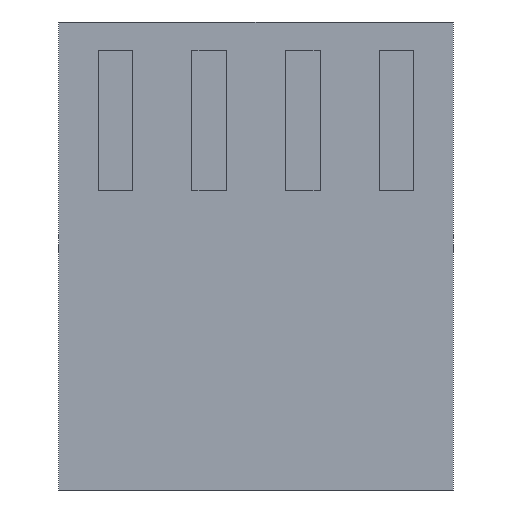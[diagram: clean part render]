
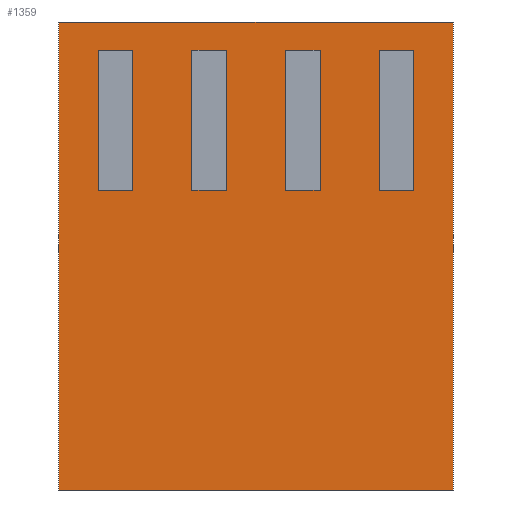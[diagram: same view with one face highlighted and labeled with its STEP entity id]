
A CAD part, front view. The second image highlights one B-rep face of the part: STEP entity #1359.
In plain terms, the highlighted planar face has unit normal (0, -1, 0).
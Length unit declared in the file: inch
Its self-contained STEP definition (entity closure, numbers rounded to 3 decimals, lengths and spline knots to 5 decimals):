
#1=DIRECTION('',(-1.,0.,0.));
#2=VECTOR('',#1,0.422);
#3=CARTESIAN_POINT('',(0.211,0.,0.));
#4=LINE('',#3,#2);
#81=DIRECTION('',(0.,0.,-1.));
#82=VECTOR('',#81,0.5);
#83=CARTESIAN_POINT('',(0.211,0.,0.));
#84=LINE('',#83,#82);
#85=DIRECTION('',(0.,0.,-1.));
#86=VECTOR('',#85,0.15);
#87=CARTESIAN_POINT('',(-0.1685,0.,-0.03));
#88=LINE('',#87,#86);
#89=DIRECTION('',(1.,0.,0.));
#90=VECTOR('',#89,0.037);
#91=CARTESIAN_POINT('',(-0.1685,0.,-0.18));
#92=LINE('',#91,#90);
#93=DIRECTION('',(0.,0.,1.));
#94=VECTOR('',#93,0.15);
#95=CARTESIAN_POINT('',(-0.1315,0.,-0.18));
#96=LINE('',#95,#94);
#97=DIRECTION('',(-1.,0.,0.));
#98=VECTOR('',#97,0.037);
#99=CARTESIAN_POINT('',(-0.1315,0.,-0.03));
#100=LINE('',#99,#98);
#101=DIRECTION('',(0.,0.,-1.));
#102=VECTOR('',#101,0.15);
#103=CARTESIAN_POINT('',(-0.0685,0.,-0.03));
#104=LINE('',#103,#102);
#105=DIRECTION('',(1.,0.,0.));
#106=VECTOR('',#105,0.037);
#107=CARTESIAN_POINT('',(-0.0685,0.,-0.18));
#108=LINE('',#107,#106);
#109=DIRECTION('',(0.,0.,1.));
#110=VECTOR('',#109,0.15);
#111=CARTESIAN_POINT('',(-0.0315,0.,-0.18));
#112=LINE('',#111,#110);
#113=DIRECTION('',(-1.,0.,0.));
#114=VECTOR('',#113,0.037);
#115=CARTESIAN_POINT('',(-0.0315,0.,-0.03));
#116=LINE('',#115,#114);
#117=DIRECTION('',(0.,0.,-1.));
#118=VECTOR('',#117,0.15);
#119=CARTESIAN_POINT('',(0.0315,0.,-0.03));
#120=LINE('',#119,#118);
#121=DIRECTION('',(1.,0.,0.));
#122=VECTOR('',#121,0.037);
#123=CARTESIAN_POINT('',(0.0315,0.,-0.18));
#124=LINE('',#123,#122);
#125=DIRECTION('',(0.,0.,1.));
#126=VECTOR('',#125,0.15);
#127=CARTESIAN_POINT('',(0.0685,0.,-0.18));
#128=LINE('',#127,#126);
#129=DIRECTION('',(-1.,0.,0.));
#130=VECTOR('',#129,0.037);
#131=CARTESIAN_POINT('',(0.0685,0.,-0.03));
#132=LINE('',#131,#130);
#133=DIRECTION('',(0.,0.,-1.));
#134=VECTOR('',#133,0.15);
#135=CARTESIAN_POINT('',(0.1315,0.,-0.03));
#136=LINE('',#135,#134);
#137=DIRECTION('',(1.,0.,0.));
#138=VECTOR('',#137,0.037);
#139=CARTESIAN_POINT('',(0.1315,0.,-0.18));
#140=LINE('',#139,#138);
#141=DIRECTION('',(0.,0.,1.));
#142=VECTOR('',#141,0.15);
#143=CARTESIAN_POINT('',(0.1685,0.,-0.18));
#144=LINE('',#143,#142);
#145=DIRECTION('',(-1.,0.,0.));
#146=VECTOR('',#145,0.037);
#147=CARTESIAN_POINT('',(0.1685,0.,-0.03));
#148=LINE('',#147,#146);
#157=DIRECTION('',(0.,0.,-1.));
#158=VECTOR('',#157,0.5);
#159=CARTESIAN_POINT('',(-0.211,0.,0.));
#160=LINE('',#159,#158);
#161=DIRECTION('',(-1.,0.,0.));
#162=VECTOR('',#161,0.422);
#163=CARTESIAN_POINT('',(0.211,0.,-0.5));
#164=LINE('',#163,#162);
#945=CARTESIAN_POINT('',(0.211,0.,0.));
#946=CARTESIAN_POINT('',(-0.211,0.,0.));
#947=VERTEX_POINT('',#945);
#948=VERTEX_POINT('',#946);
#953=CARTESIAN_POINT('',(0.211,0.,-0.5));
#954=CARTESIAN_POINT('',(-0.211,0.,-0.5));
#955=VERTEX_POINT('',#953);
#956=VERTEX_POINT('',#954);
#1021=CARTESIAN_POINT('',(-0.1685,0.,-0.03));
#1022=CARTESIAN_POINT('',(-0.1685,0.,-0.18));
#1023=VERTEX_POINT('',#1021);
#1024=VERTEX_POINT('',#1022);
#1025=CARTESIAN_POINT('',(-0.1315,0.,-0.18));
#1026=VERTEX_POINT('',#1025);
#1027=CARTESIAN_POINT('',(-0.1315,0.,-0.03));
#1028=VERTEX_POINT('',#1027);
#1209=CARTESIAN_POINT('',(-0.0685,0.,-0.03));
#1210=CARTESIAN_POINT('',(-0.0685,0.,-0.18));
#1211=VERTEX_POINT('',#1209);
#1212=VERTEX_POINT('',#1210);
#1213=CARTESIAN_POINT('',(-0.0315,0.,-0.18));
#1214=VERTEX_POINT('',#1213);
#1215=CARTESIAN_POINT('',(-0.0315,0.,-0.03));
#1216=VERTEX_POINT('',#1215);
#1225=CARTESIAN_POINT('',(0.0315,0.,-0.03));
#1226=CARTESIAN_POINT('',(0.0315,0.,-0.18));
#1227=VERTEX_POINT('',#1225);
#1228=VERTEX_POINT('',#1226);
#1229=CARTESIAN_POINT('',(0.0685,0.,-0.18));
#1230=VERTEX_POINT('',#1229);
#1231=CARTESIAN_POINT('',(0.0685,0.,-0.03));
#1232=VERTEX_POINT('',#1231);
#1241=CARTESIAN_POINT('',(0.1315,0.,-0.03));
#1242=CARTESIAN_POINT('',(0.1315,0.,-0.18));
#1243=VERTEX_POINT('',#1241);
#1244=VERTEX_POINT('',#1242);
#1245=CARTESIAN_POINT('',(0.1685,0.,-0.18));
#1246=VERTEX_POINT('',#1245);
#1247=CARTESIAN_POINT('',(0.1685,0.,-0.03));
#1248=VERTEX_POINT('',#1247);
#1305=CARTESIAN_POINT('',(0.211,0.,0.));
#1306=DIRECTION('',(0.,-1.,0.));
#1307=DIRECTION('',(-1.,0.,0.));
#1308=AXIS2_PLACEMENT_3D('',#1305,#1306,#1307);
#1309=PLANE('',#1308);
#1310=ORIENTED_EDGE('',*,*,#1254,.F.);
#1312=ORIENTED_EDGE('',*,*,#1311,.T.);
#1314=ORIENTED_EDGE('',*,*,#1313,.T.);
#1316=ORIENTED_EDGE('',*,*,#1315,.F.);
#1317=EDGE_LOOP('',(#1310,#1312,#1314,#1316));
#1318=FACE_OUTER_BOUND('',#1317,.F.);
#1320=ORIENTED_EDGE('',*,*,#1319,.T.);
#1322=ORIENTED_EDGE('',*,*,#1321,.T.);
#1324=ORIENTED_EDGE('',*,*,#1323,.T.);
#1326=ORIENTED_EDGE('',*,*,#1325,.T.);
#1327=EDGE_LOOP('',(#1320,#1322,#1324,#1326));
#1328=FACE_BOUND('',#1327,.F.);
#1330=ORIENTED_EDGE('',*,*,#1329,.T.);
#1332=ORIENTED_EDGE('',*,*,#1331,.T.);
#1334=ORIENTED_EDGE('',*,*,#1333,.T.);
#1336=ORIENTED_EDGE('',*,*,#1335,.T.);
#1337=EDGE_LOOP('',(#1330,#1332,#1334,#1336));
#1338=FACE_BOUND('',#1337,.F.);
#1340=ORIENTED_EDGE('',*,*,#1339,.T.);
#1342=ORIENTED_EDGE('',*,*,#1341,.T.);
#1344=ORIENTED_EDGE('',*,*,#1343,.T.);
#1346=ORIENTED_EDGE('',*,*,#1345,.T.);
#1347=EDGE_LOOP('',(#1340,#1342,#1344,#1346));
#1348=FACE_BOUND('',#1347,.F.);
#1350=ORIENTED_EDGE('',*,*,#1349,.T.);
#1352=ORIENTED_EDGE('',*,*,#1351,.T.);
#1354=ORIENTED_EDGE('',*,*,#1353,.T.);
#1356=ORIENTED_EDGE('',*,*,#1355,.T.);
#1357=EDGE_LOOP('',(#1350,#1352,#1354,#1356));
#1358=FACE_BOUND('',#1357,.F.);
#1359=ADVANCED_FACE('',(#1318,#1328,#1338,#1348,#1358),#1309,.T.);
#1254=EDGE_CURVE('',#947,#948,#4,.T.);
#1311=EDGE_CURVE('',#947,#955,#84,.T.);
#1313=EDGE_CURVE('',#955,#956,#164,.T.);
#1315=EDGE_CURVE('',#948,#956,#160,.T.);
#1319=EDGE_CURVE('',#1023,#1024,#88,.T.);
#1321=EDGE_CURVE('',#1024,#1026,#92,.T.);
#1323=EDGE_CURVE('',#1026,#1028,#96,.T.);
#1325=EDGE_CURVE('',#1028,#1023,#100,.T.);
#1329=EDGE_CURVE('',#1211,#1212,#104,.T.);
#1331=EDGE_CURVE('',#1212,#1214,#108,.T.);
#1333=EDGE_CURVE('',#1214,#1216,#112,.T.);
#1335=EDGE_CURVE('',#1216,#1211,#116,.T.);
#1339=EDGE_CURVE('',#1227,#1228,#120,.T.);
#1341=EDGE_CURVE('',#1228,#1230,#124,.T.);
#1343=EDGE_CURVE('',#1230,#1232,#128,.T.);
#1345=EDGE_CURVE('',#1232,#1227,#132,.T.);
#1349=EDGE_CURVE('',#1243,#1244,#136,.T.);
#1351=EDGE_CURVE('',#1244,#1246,#140,.T.);
#1353=EDGE_CURVE('',#1246,#1248,#144,.T.);
#1355=EDGE_CURVE('',#1248,#1243,#148,.T.);
